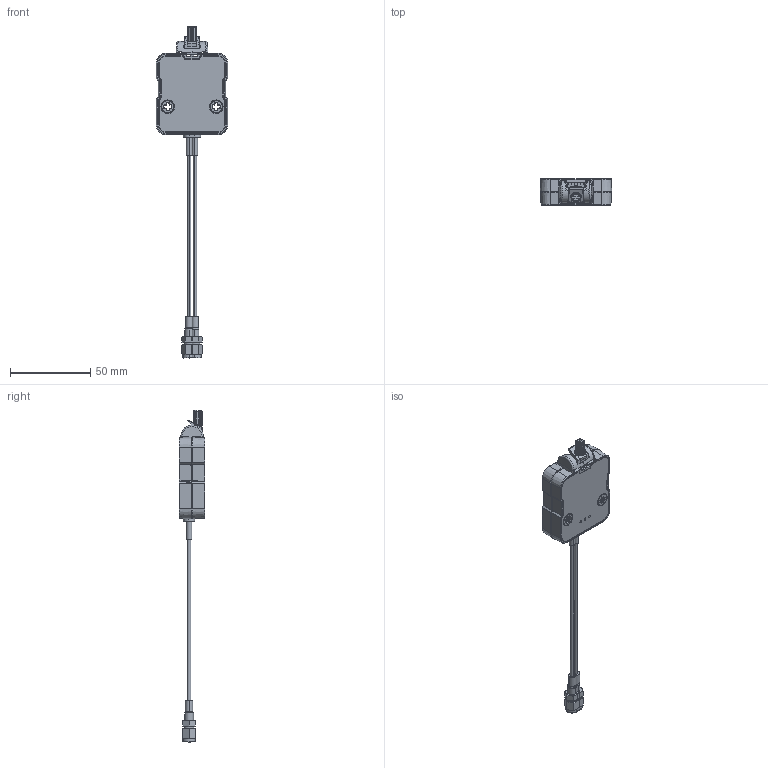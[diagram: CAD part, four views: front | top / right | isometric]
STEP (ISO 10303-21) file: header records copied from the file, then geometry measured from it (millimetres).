
FILE_DESCRIPTION((''),'2;1');
FILE_NAME('P77C292MM_CUSTOMER','2021-02-03T11:24:28',('mmoore2'),(''),'CREO PARAMETRIC BY PTC INC, 2019080','CREO PARAMETRIC BY PTC INC, 2019080','');
FILE_SCHEMA(('CONFIG_CONTROL_DESIGN','SHAPE_APPEARANCE_LAYERS_GROUPS'));
Length unit declared in the file: inch
Products named in the file (1): P77C292MM_CUSTOMER
Bounding box: 44.61 x 16.13 x 206.46 mm (x, y, z)
Surface area: 23914.9 mm2 (no closed solid volume)
Topology: 0 solids, 44 shells, 1702 faces, 5083 edges, 3360 vertices
Faces by surface type: cylinder 554, plane 513, cone 292, bspline 182, torus 131, sphere 30
Entity records: 83477 total; most frequent: CARTESIAN_POINT 25139, DIRECTION 8884, ORIENTED_EDGE 8653, EDGE_CURVE 5078, VERTEX_POINT 3360, AXIS2_PLACEMENT_3D 3257, VECTOR 2370, LINE 2370
